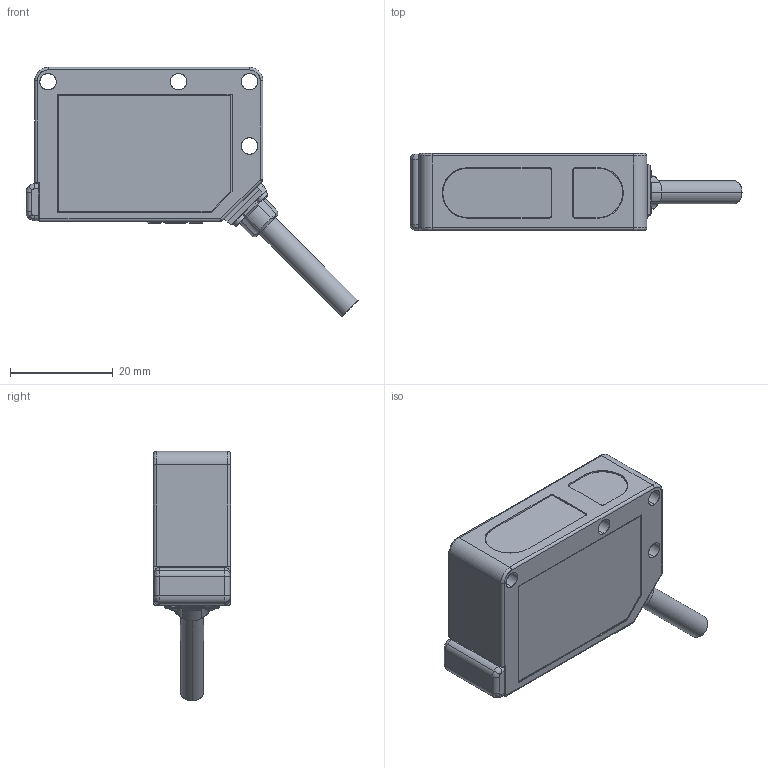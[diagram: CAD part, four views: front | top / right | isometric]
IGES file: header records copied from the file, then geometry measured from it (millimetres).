
Start section: SolidWorks IGES file using analytic representation for surfaces
Bounding box: 64.62 x 15 x 48.52 mm (x, y, z)
Surface area: 7860.9 mm2 (no closed solid volume)
Topology: 0 solids, 0 shells, 648 faces, 5726 edges, 5724 vertices
Faces by surface type: bspline 501, revolution 147
